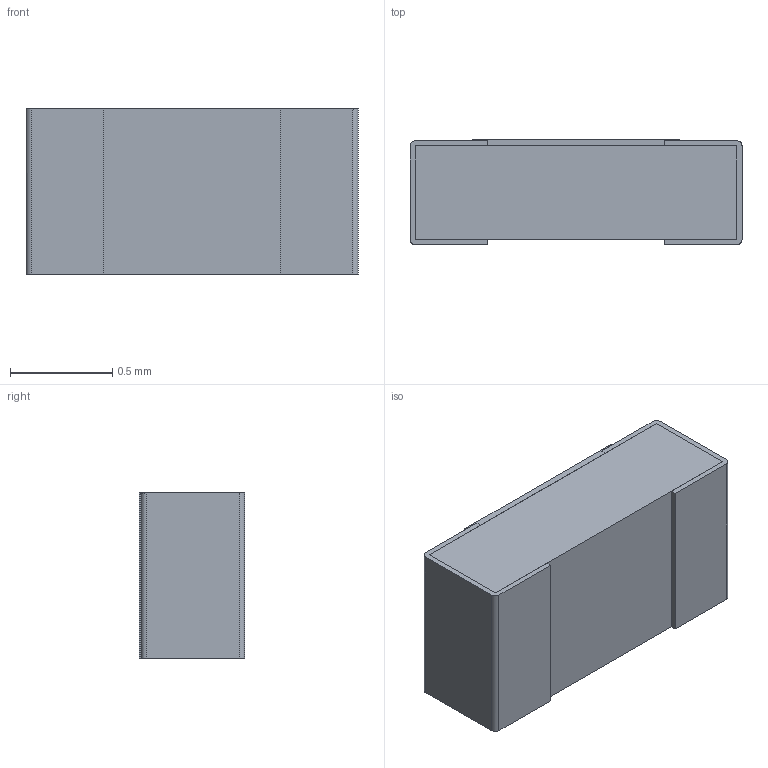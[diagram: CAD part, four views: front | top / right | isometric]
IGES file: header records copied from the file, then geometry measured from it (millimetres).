
Global section: file name: M55342-12; native system: Autodesk Inventor LT ; preprocessor: unknown; author: Neil; date: 20190911.151211; units: inch
Bounding box: 1.63 x 0.52 x 0.81 mm (x, y, z)
Volume: 0.7 mm3; surface area: 11.7 mm2
Topology: 5 solids, 5 shells, 50 faces, 120 edges, 80 vertices
Faces by surface type: bspline 50
